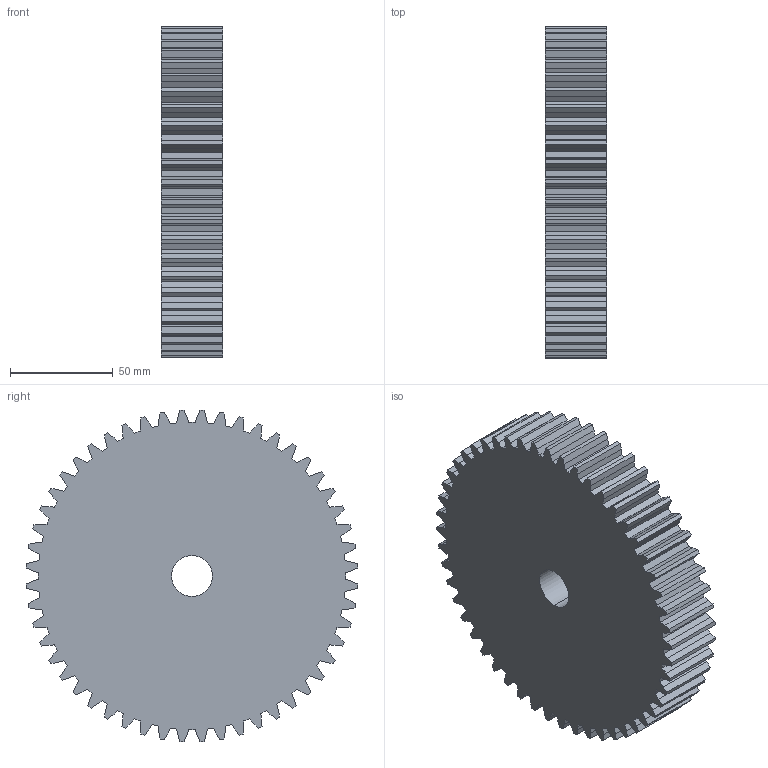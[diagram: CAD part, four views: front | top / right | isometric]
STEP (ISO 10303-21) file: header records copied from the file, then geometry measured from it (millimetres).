
FILE_DESCRIPTION (( 'STEP AP203' ), '1' );
FILE_NAME ('CM 30052.STEP', '2013-09-23T09:46:22', ( '' ), ( '' ), 'SwSTEP 2.0', 'SolidWorks 2010', '' );
FILE_SCHEMA (( 'CONFIG_CONTROL_DESIGN' ));
Length unit declared in the file: millimetre
Products named in the file (1): CM 30052
Bounding box: 30 x 161.81 x 161.81 mm (x, y, z)
Volume: 559369.4 mm3; surface area: 66933.7 mm2
Topology: 1 solids, 1 shells, 316 faces, 942 edges, 628 vertices
Faces by surface type: plane 210, cylinder 106
Entity records: 11095 total; most frequent: CARTESIAN_POINT 3699, ORIENTED_EDGE 1884, DIRECTION 996, EDGE_CURVE 942, VERTEX_POINT 628, B_SPLINE_CURVE_WITH_KNOTS 604, AXIS2_PLACEMENT_3D 341, EDGE_LOOP 318
